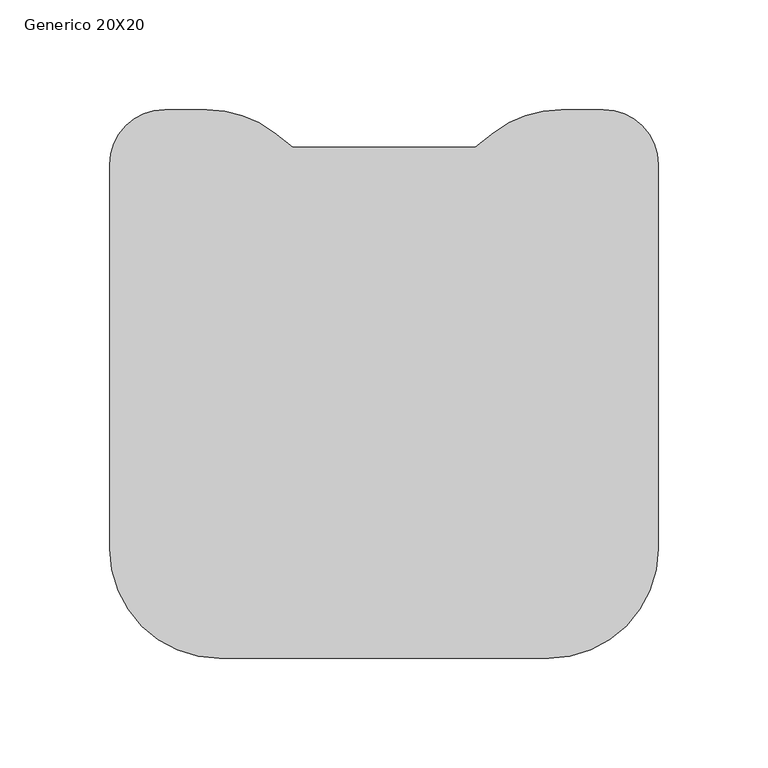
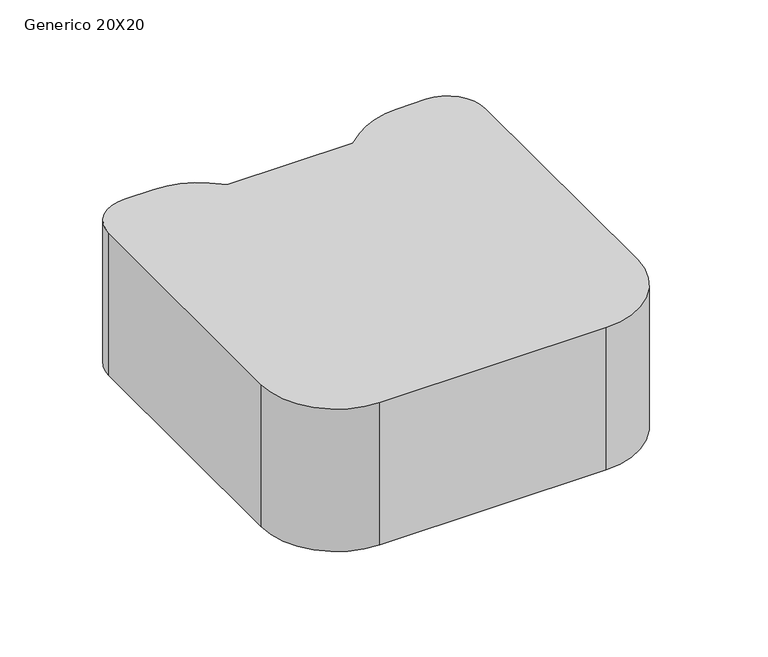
"""IFC4 building model written with IfcOpenShell, lengths in millimetres: furniture geometry, Secamanos : Generico 20X20."""

from ifc_helpers import new_model, si_unit, point, frame_2d, origin, origin_with_axes, place, context, project, spatial, polyline, circle_curve, trimmed, segment, composite_curve, outline, extrude, source, transform, mapped, element, save


def generico_20x20_1fd937c5(model_context):
    return source(origin(), model_context, "Body", "SweptSolid", [
        extrude(outline(composite_curve([segment(polyline([(75.0, -125.0), (-75.0, -125.0)]), True, "CONTINUOUS"), segment(trimmed(circle_curve(frame_2d((-75.0, -75.0)), 50.0), [point((-75.0, -125.0))], [point((-125.0, -75.0))], False, "CARTESIAN"), True, "CONTINUOUS"), segment(polyline([(-125.0, -75.0), (-125.0, 100.0)]), True, "CONTINUOUS"), segment(trimmed(circle_curve(frame_2d((-100.0, 100.0)), 25.0), [point((-125.0, 100.0))], [point((-100.0, 125.0))], False, "CARTESIAN"), True, "CONTINUOUS"), segment(polyline([(-100.0, 125.0), (-80.716252, 125.0)]), True, "CONTINUOUS"), segment(trimmed(circle_curve(frame_2d((-80.716252, 75.0)), 50.0), [point((-80.716252, 125.0))], [point((-50.0111459, 114.4613287))], False, "CARTESIAN"), True, "CONTINUOUS"), segment(polyline([(-50.0111459, 114.4613287), (-41.6666667, 107.9684373), (41.6666667, 107.9684373), (50.0111459, 114.4613287)]), True, "CONTINUOUS"), segment(trimmed(circle_curve(frame_2d((80.716252, 75.0)), 50.0), [point((50.0111459, 114.4613287))], [point((80.716252, 125.0))], False, "CARTESIAN"), True, "CONTINUOUS"), segment(polyline([(80.716252, 125.0), (100.0, 125.0)]), True, "CONTINUOUS"), segment(trimmed(circle_curve(frame_2d((100.0, 100.0)), 25.0), [point((100.0, 125.0))], [point((125.0, 100.0))], False, "CARTESIAN"), True, "CONTINUOUS"), segment(polyline([(125.0, 100.0), (125.0, -75.0)]), True, "CONTINUOUS"), segment(trimmed(circle_curve(frame_2d((75.0, -75.0)), 50.0), [point((125.0, -75.0))], [point((75.0, -125.0))], False, "CARTESIAN"), True, "CONTINUOUS")], self_intersect=False)), origin_with_axes(), (0.0, 0.0, 1.0), 100.0),
    ])


if __name__ == "__main__":
    model = new_model("IFC4")
    model_context = context("Model", 3, world=origin())
    ifc_project = project(units=[si_unit("LENGTHUNIT", "METRE", prefix="MILLI")], contexts=[model_context])
    site = spatial("IfcSite", under=ifc_project)
    building = spatial("IfcBuilding", under=site)
    placement = place(None, origin())
    generico_20x20_shape = generico_20x20_1fd937c5(model_context)
    element("IfcFurniture", 1, ObjectType="Secamanos : Generico 20X20", at=placement, inside=building, context=model_context, shape_type="MappedRepresentation", body=[
        mapped(generico_20x20_shape, transform((0.0, 0.0, 0.0), x_axis=(1.0, 0.0, 0.0), y_axis=(0.0, 1.0, 0.0), z_axis=(0.0, 0.0, 1.0))),
    ])
    save(model, "model.ifc")
